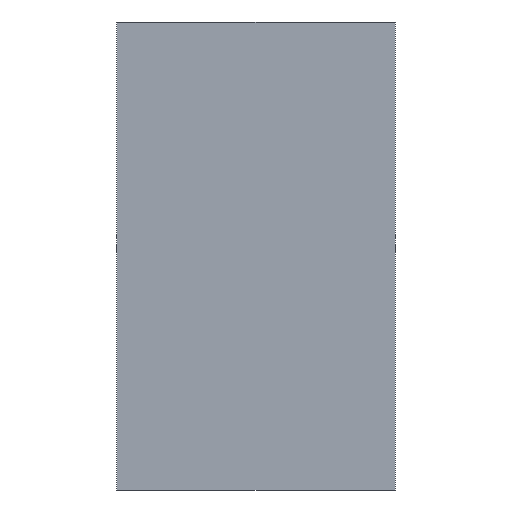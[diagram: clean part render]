
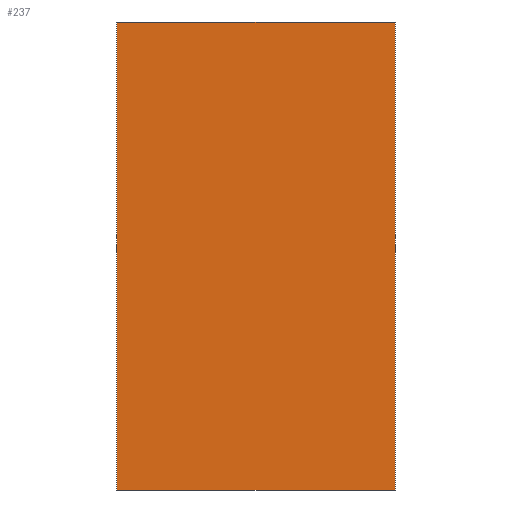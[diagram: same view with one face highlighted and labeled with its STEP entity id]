
A CAD part, front view. The second image highlights one B-rep face of the part: STEP entity #237.
In plain terms, the highlighted planar face has unit normal (0, -1, 0).
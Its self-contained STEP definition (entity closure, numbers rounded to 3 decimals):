
#21 = EDGE_CURVE('',#22,#24,#26,.T.);
#22 = VERTEX_POINT('',#23);
#23 = CARTESIAN_POINT('',(167.5,65.,125.));
#24 = VERTEX_POINT('',#25);
#25 = CARTESIAN_POINT('',(167.5,65.,167.));
#26 = SURFACE_CURVE('',#27,(#31,#43),.PCURVE_S1.);
#27 = LINE('',#28,#29);
#28 = CARTESIAN_POINT('',(167.5,65.,125.));
#29 = VECTOR('',#30,1.);
#30 = DIRECTION('',(0.,0.,1.));
#31 = PCURVE('',#32,#37);
#32 = PLANE('',#33);
#33 = AXIS2_PLACEMENT_3D('',#34,#35,#36);
#34 = CARTESIAN_POINT('',(167.5,65.,125.));
#35 = DIRECTION('',(1.,0.,0.));
#36 = DIRECTION('',(0.,0.,1.));
#37 = DEFINITIONAL_REPRESENTATION('',(#38),#42);
#38 = LINE('',#39,#40);
#39 = CARTESIAN_POINT('',(0.,0.));
#40 = VECTOR('',#41,1.);
#41 = DIRECTION('',(1.,0.));
#42 = ( GEOMETRIC_REPRESENTATION_CONTEXT(2) 
PARAMETRIC_REPRESENTATION_CONTEXT() REPRESENTATION_CONTEXT('2D SPACE',''
  ) );
#43 = PCURVE('',#44,#49);
#44 = PLANE('',#45);
#45 = AXIS2_PLACEMENT_3D('',#46,#47,#48);
#46 = CARTESIAN_POINT('',(167.5,65.,125.));
#47 = DIRECTION('',(0.,1.,0.));
#48 = DIRECTION('',(0.,0.,1.));
#49 = DEFINITIONAL_REPRESENTATION('',(#50),#54);
#50 = LINE('',#51,#52);
#51 = CARTESIAN_POINT('',(0.,0.));
#52 = VECTOR('',#53,1.);
#53 = DIRECTION('',(1.,0.));
#54 = ( GEOMETRIC_REPRESENTATION_CONTEXT(2) 
PARAMETRIC_REPRESENTATION_CONTEXT() REPRESENTATION_CONTEXT('2D SPACE',''
  ) );
#72 = PLANE('',#73);
#73 = AXIS2_PLACEMENT_3D('',#74,#75,#76);
#74 = CARTESIAN_POINT('',(167.5,65.,125.));
#75 = DIRECTION('',(0.,0.,1.));
#76 = DIRECTION('',(1.,0.,0.));
#126 = PLANE('',#127);
#127 = AXIS2_PLACEMENT_3D('',#128,#129,#130);
#128 = CARTESIAN_POINT('',(167.5,65.,167.));
#129 = DIRECTION('',(0.,0.,1.));
#130 = DIRECTION('',(1.,0.,0.));
#141 = EDGE_CURVE('',#142,#144,#146,.T.);
#142 = VERTEX_POINT('',#143);
#143 = CARTESIAN_POINT('',(192.5,65.,125.));
#144 = VERTEX_POINT('',#145);
#145 = CARTESIAN_POINT('',(192.5,65.,167.));
#146 = SURFACE_CURVE('',#147,(#151,#163),.PCURVE_S1.);
#147 = LINE('',#148,#149);
#148 = CARTESIAN_POINT('',(192.5,65.,125.));
#149 = VECTOR('',#150,1.);
#150 = DIRECTION('',(0.,0.,1.));
#151 = PCURVE('',#152,#157);
#152 = PLANE('',#153);
#153 = AXIS2_PLACEMENT_3D('',#154,#155,#156);
#154 = CARTESIAN_POINT('',(192.5,65.,125.));
#155 = DIRECTION('',(1.,0.,0.));
#156 = DIRECTION('',(0.,0.,1.));
#157 = DEFINITIONAL_REPRESENTATION('',(#158),#162);
#158 = LINE('',#159,#160);
#159 = CARTESIAN_POINT('',(0.,0.));
#160 = VECTOR('',#161,1.);
#161 = DIRECTION('',(1.,0.));
#162 = ( GEOMETRIC_REPRESENTATION_CONTEXT(2) 
PARAMETRIC_REPRESENTATION_CONTEXT() REPRESENTATION_CONTEXT('2D SPACE',''
  ) );
#163 = PCURVE('',#44,#164);
#164 = DEFINITIONAL_REPRESENTATION('',(#165),#169);
#165 = LINE('',#166,#167);
#166 = CARTESIAN_POINT('',(0.,25.));
#167 = VECTOR('',#168,1.);
#168 = DIRECTION('',(1.,0.));
#169 = ( GEOMETRIC_REPRESENTATION_CONTEXT(2) 
PARAMETRIC_REPRESENTATION_CONTEXT() REPRESENTATION_CONTEXT('2D SPACE',''
  ) );
#237 = ADVANCED_FACE('',(#238),#44,.F.);
#238 = FACE_BOUND('',#239,.F.);
#239 = EDGE_LOOP('',(#240,#261,#262,#283));
#240 = ORIENTED_EDGE('',*,*,#241,.F.);
#241 = EDGE_CURVE('',#22,#142,#242,.T.);
#242 = SURFACE_CURVE('',#243,(#247,#254),.PCURVE_S1.);
#243 = LINE('',#244,#245);
#244 = CARTESIAN_POINT('',(167.5,65.,125.));
#245 = VECTOR('',#246,1.);
#246 = DIRECTION('',(1.,0.,0.));
#247 = PCURVE('',#44,#248);
#248 = DEFINITIONAL_REPRESENTATION('',(#249),#253);
#249 = LINE('',#250,#251);
#250 = CARTESIAN_POINT('',(0.,0.));
#251 = VECTOR('',#252,1.);
#252 = DIRECTION('',(0.,1.));
#253 = ( GEOMETRIC_REPRESENTATION_CONTEXT(2) 
PARAMETRIC_REPRESENTATION_CONTEXT() REPRESENTATION_CONTEXT('2D SPACE',''
  ) );
#254 = PCURVE('',#72,#255);
#255 = DEFINITIONAL_REPRESENTATION('',(#256),#260);
#256 = LINE('',#257,#258);
#257 = CARTESIAN_POINT('',(0.,0.));
#258 = VECTOR('',#259,1.);
#259 = DIRECTION('',(1.,0.));
#260 = ( GEOMETRIC_REPRESENTATION_CONTEXT(2) 
PARAMETRIC_REPRESENTATION_CONTEXT() REPRESENTATION_CONTEXT('2D SPACE',''
  ) );
#261 = ORIENTED_EDGE('',*,*,#21,.T.);
#262 = ORIENTED_EDGE('',*,*,#263,.T.);
#263 = EDGE_CURVE('',#24,#144,#264,.T.);
#264 = SURFACE_CURVE('',#265,(#269,#276),.PCURVE_S1.);
#265 = LINE('',#266,#267);
#266 = CARTESIAN_POINT('',(167.5,65.,167.));
#267 = VECTOR('',#268,1.);
#268 = DIRECTION('',(1.,0.,0.));
#269 = PCURVE('',#44,#270);
#270 = DEFINITIONAL_REPRESENTATION('',(#271),#275);
#271 = LINE('',#272,#273);
#272 = CARTESIAN_POINT('',(42.,0.));
#273 = VECTOR('',#274,1.);
#274 = DIRECTION('',(0.,1.));
#275 = ( GEOMETRIC_REPRESENTATION_CONTEXT(2) 
PARAMETRIC_REPRESENTATION_CONTEXT() REPRESENTATION_CONTEXT('2D SPACE',''
  ) );
#276 = PCURVE('',#126,#277);
#277 = DEFINITIONAL_REPRESENTATION('',(#278),#282);
#278 = LINE('',#279,#280);
#279 = CARTESIAN_POINT('',(0.,0.));
#280 = VECTOR('',#281,1.);
#281 = DIRECTION('',(1.,0.));
#282 = ( GEOMETRIC_REPRESENTATION_CONTEXT(2) 
PARAMETRIC_REPRESENTATION_CONTEXT() REPRESENTATION_CONTEXT('2D SPACE',''
  ) );
#283 = ORIENTED_EDGE('',*,*,#141,.F.);
